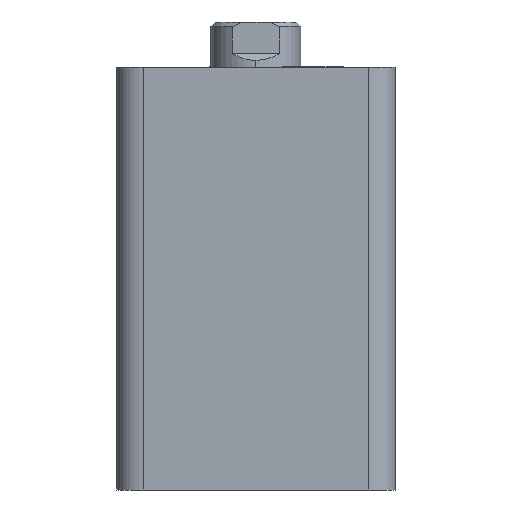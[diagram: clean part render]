
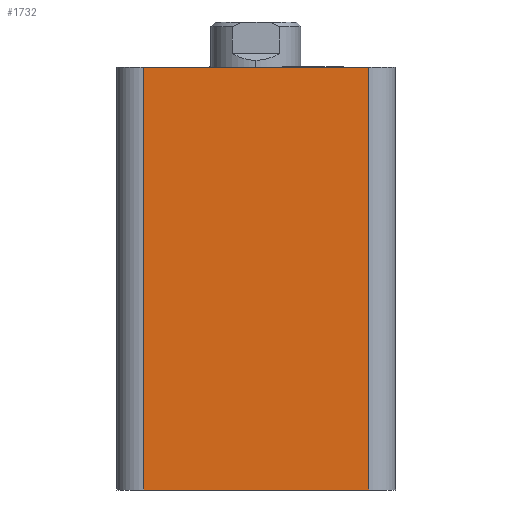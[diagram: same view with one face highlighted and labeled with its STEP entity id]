
A CAD part, left-side view. The second image highlights one B-rep face of the part: STEP entity #1732.
In plain terms, the highlighted planar face has unit normal (-1, 0, 0).
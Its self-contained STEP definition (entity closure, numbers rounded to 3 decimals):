
#230 = VERTEX_POINT ( 'NONE', #3190 ) ;
#241 = VERTEX_POINT ( 'NONE', #3064 ) ;
#875 = CARTESIAN_POINT ( 'NONE',  ( -31., 31., 94. ) ) ;
#876 = DIRECTION ( 'NONE',  ( 0., -1., 0. ) ) ;
#1031 = AXIS2_PLACEMENT_3D ( 'NONE', #2760, #2767, #2768 ) ;
#1626 = EDGE_CURVE ( 'NONE', #241, #230, #3437, .T. ) ;
#1661 = EDGE_CURVE ( 'NONE', #4455, #4456, #3475, .T. ) ;
#1673 = EDGE_CURVE ( 'NONE', #4456, #230, #3497, .T. ) ;
#1674 = EDGE_CURVE ( 'NONE', #241, #4455, #3499, .T. ) ;
#1732 = ADVANCED_FACE ( 'NONE', ( #3579 ), #2762, .F. ) ;
#1927 = EDGE_LOOP ( 'NONE', ( #3278, #3279, #3280, #3281 ) ) ;
#2459 = DIRECTION ( 'NONE',  ( 0., -1., 0. ) ) ;
#2478 = CARTESIAN_POINT ( 'NONE',  ( -31., 31., 0. ) ) ;
#2509 = CARTESIAN_POINT ( 'NONE',  ( -31., -25., 94. ) ) ;
#2510 = DIRECTION ( 'NONE',  ( 0., 0., 1. ) ) ;
#2511 = CARTESIAN_POINT ( 'NONE',  ( -31., 25., 94. ) ) ;
#2512 = DIRECTION ( 'NONE',  ( 0., 0., -1. ) ) ;
#2760 = CARTESIAN_POINT ( 'NONE',  ( -31., 31., 94. ) ) ;
#2762 = PLANE ( 'NONE',  #1031 ) ;
#2767 = DIRECTION ( 'NONE',  ( 1., 0., 0. ) ) ;
#2768 = DIRECTION ( 'NONE',  ( 0., 0., -1. ) ) ;
#3064 = CARTESIAN_POINT ( 'NONE',  ( -31., 25., 94. ) ) ;
#3190 = CARTESIAN_POINT ( 'NONE',  ( -31., -25., 94. ) ) ;
#3278 = ORIENTED_EDGE ( 'NONE', *, *, #1661, .T. ) ;
#3279 = ORIENTED_EDGE ( 'NONE', *, *, #1673, .T. ) ;
#3280 = ORIENTED_EDGE ( 'NONE', *, *, #1626, .F. ) ;
#3281 = ORIENTED_EDGE ( 'NONE', *, *, #1674, .T. ) ;
#3437 = LINE ( 'NONE', #875, #3439 ) ;
#3439 = VECTOR ( 'NONE', #876, 1000. ) ;
#3475 = LINE ( 'NONE', #2478, #3480 ) ;
#3480 = VECTOR ( 'NONE', #2459, 1000. ) ;
#3497 = LINE ( 'NONE', #2509, #3500 ) ;
#3499 = LINE ( 'NONE', #2511, #3502 ) ;
#3500 = VECTOR ( 'NONE', #2510, 1000. ) ;
#3502 = VECTOR ( 'NONE', #2512, 1000. ) ;
#3579 = FACE_OUTER_BOUND ( 'NONE', #1927, .T. ) ;
#4455 = VERTEX_POINT ( 'NONE', #4965 ) ;
#4456 = VERTEX_POINT ( 'NONE', #4966 ) ;
#4965 = CARTESIAN_POINT ( 'NONE',  ( -31., 25., 0. ) ) ;
#4966 = CARTESIAN_POINT ( 'NONE',  ( -31., -25., 0. ) ) ;
